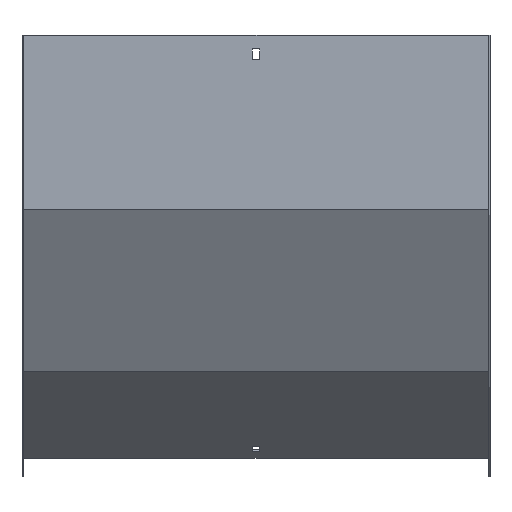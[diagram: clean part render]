
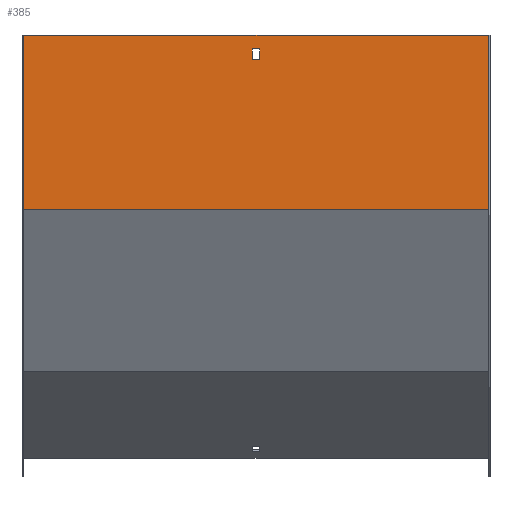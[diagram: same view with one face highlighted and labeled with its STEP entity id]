
A CAD part, front view. The second image highlights one B-rep face of the part: STEP entity #385.
In plain terms, the highlighted planar face has unit normal (0, -1, 0).
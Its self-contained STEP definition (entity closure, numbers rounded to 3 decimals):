
#13 = CARTESIAN_POINT ( 'NONE',  ( -3.25, -1.5, 0. ) ) ;
#16 = EDGE_LOOP ( 'NONE', ( #93, #182, #150, #170 ) ) ;
#18 = VECTOR ( 'NONE', #350, 1000. ) ;
#22 = EDGE_CURVE ( 'NONE', #381, #675, #91, .T. ) ;
#46 = VERTEX_POINT ( 'NONE', #158 ) ;
#63 = PLANE ( 'NONE',  #147 ) ;
#69 = VERTEX_POINT ( 'NONE', #831 ) ;
#85 = VECTOR ( 'NONE', #287, 1000. ) ;
#89 = EDGE_LOOP ( 'NONE', ( #416, #594, #504, #783 ) ) ;
#91 = LINE ( 'NONE', #13, #85 ) ;
#93 = ORIENTED_EDGE ( 'NONE', *, *, #329, .F. ) ;
#96 = VERTEX_POINT ( 'NONE', #238 ) ;
#104 = VECTOR ( 'NONE', #619, 1000. ) ;
#117 = DIRECTION ( 'NONE',  ( 0., 0., -1. ) ) ;
#128 = CARTESIAN_POINT ( 'NONE',  ( 201.5, -1.5, -21. ) ) ;
#147 = AXIS2_PLACEMENT_3D ( 'NONE', #847, #392, #715 ) ;
#150 = ORIENTED_EDGE ( 'NONE', *, *, #22, .F. ) ;
#158 = CARTESIAN_POINT ( 'NONE',  ( 3.25, -1.5, -12. ) ) ;
#170 = ORIENTED_EDGE ( 'NONE', *, *, #224, .F. ) ;
#182 = ORIENTED_EDGE ( 'NONE', *, *, #388, .F. ) ;
#212 = VECTOR ( 'NONE', #574, 1000. ) ;
#224 = EDGE_CURVE ( 'NONE', #46, #381, #617, .T. ) ;
#238 = CARTESIAN_POINT ( 'NONE',  ( -200., -1.5, 0. ) ) ;
#241 = VECTOR ( 'NONE', #524, 1000. ) ;
#243 = DIRECTION ( 'NONE',  ( 0., 0., -1. ) ) ;
#261 = LINE ( 'NONE', #128, #590 ) ;
#266 = FACE_OUTER_BOUND ( 'NONE', #89, .T. ) ;
#287 = DIRECTION ( 'NONE',  ( 0., 0., -1. ) ) ;
#292 = VECTOR ( 'NONE', #243, 1000. ) ;
#297 = EDGE_CURVE ( 'NONE', #69, #384, #395, .T. ) ;
#326 = CARTESIAN_POINT ( 'NONE',  ( 201.5, -1.5, -150.102 ) ) ;
#329 = EDGE_CURVE ( 'NONE', #549, #46, #453, .T. ) ;
#350 = DIRECTION ( 'NONE',  ( -1., 0., 0. ) ) ;
#370 = LINE ( 'NONE', #823, #477 ) ;
#381 = VERTEX_POINT ( 'NONE', #397 ) ;
#384 = VERTEX_POINT ( 'NONE', #583 ) ;
#385 = ADVANCED_FACE ( 'NONE', ( #266, #515 ), #63, .F. ) ;
#388 = EDGE_CURVE ( 'NONE', #675, #549, #261, .T. ) ;
#392 = DIRECTION ( 'NONE',  ( 0., 1., 0. ) ) ;
#395 = LINE ( 'NONE', #326, #212 ) ;
#397 = CARTESIAN_POINT ( 'NONE',  ( -3.25, -1.5, -12. ) ) ;
#416 = ORIENTED_EDGE ( 'NONE', *, *, #821, .T. ) ;
#422 = CARTESIAN_POINT ( 'NONE',  ( 201.5, -1.5, 0. ) ) ;
#453 = LINE ( 'NONE', #514, #241 ) ;
#477 = VECTOR ( 'NONE', #117, 1000. ) ;
#491 = EDGE_CURVE ( 'NONE', #716, #69, #700, .T. ) ;
#504 = ORIENTED_EDGE ( 'NONE', *, *, #491, .F. ) ;
#514 = CARTESIAN_POINT ( 'NONE',  ( 3.25, -1.5, 0. ) ) ;
#515 = FACE_BOUND ( 'NONE', #16, .T. ) ;
#524 = DIRECTION ( 'NONE',  ( 0., 0., 1. ) ) ;
#549 = VERTEX_POINT ( 'NONE', #614 ) ;
#561 = CARTESIAN_POINT ( 'NONE',  ( 200., -1.5, 0. ) ) ;
#574 = DIRECTION ( 'NONE',  ( -1., 0., 0. ) ) ;
#583 = CARTESIAN_POINT ( 'NONE',  ( -200., -1.5, -150.102 ) ) ;
#590 = VECTOR ( 'NONE', #649, 1000. ) ;
#594 = ORIENTED_EDGE ( 'NONE', *, *, #297, .F. ) ;
#614 = CARTESIAN_POINT ( 'NONE',  ( 3.25, -1.5, -21. ) ) ;
#617 = LINE ( 'NONE', #741, #104 ) ;
#619 = DIRECTION ( 'NONE',  ( -1., 0., 0. ) ) ;
#649 = DIRECTION ( 'NONE',  ( 1., 0., 0. ) ) ;
#656 = EDGE_CURVE ( 'NONE', #716, #96, #666, .T. ) ;
#666 = LINE ( 'NONE', #422, #18 ) ;
#675 = VERTEX_POINT ( 'NONE', #812 ) ;
#700 = LINE ( 'NONE', #561, #292 ) ;
#715 = DIRECTION ( 'NONE',  ( 0., 0., 1. ) ) ;
#716 = VERTEX_POINT ( 'NONE', #717 ) ;
#717 = CARTESIAN_POINT ( 'NONE',  ( 200., -1.5, 0. ) ) ;
#741 = CARTESIAN_POINT ( 'NONE',  ( 201.5, -1.5, -12. ) ) ;
#783 = ORIENTED_EDGE ( 'NONE', *, *, #656, .T. ) ;
#812 = CARTESIAN_POINT ( 'NONE',  ( -3.25, -1.5, -21. ) ) ;
#821 = EDGE_CURVE ( 'NONE', #96, #384, #370, .T. ) ;
#823 = CARTESIAN_POINT ( 'NONE',  ( -200., -1.5, 0. ) ) ;
#831 = CARTESIAN_POINT ( 'NONE',  ( 200., -1.5, -150.102 ) ) ;
#847 = CARTESIAN_POINT ( 'NONE',  ( 201.5, -1.5, 0. ) ) ;
